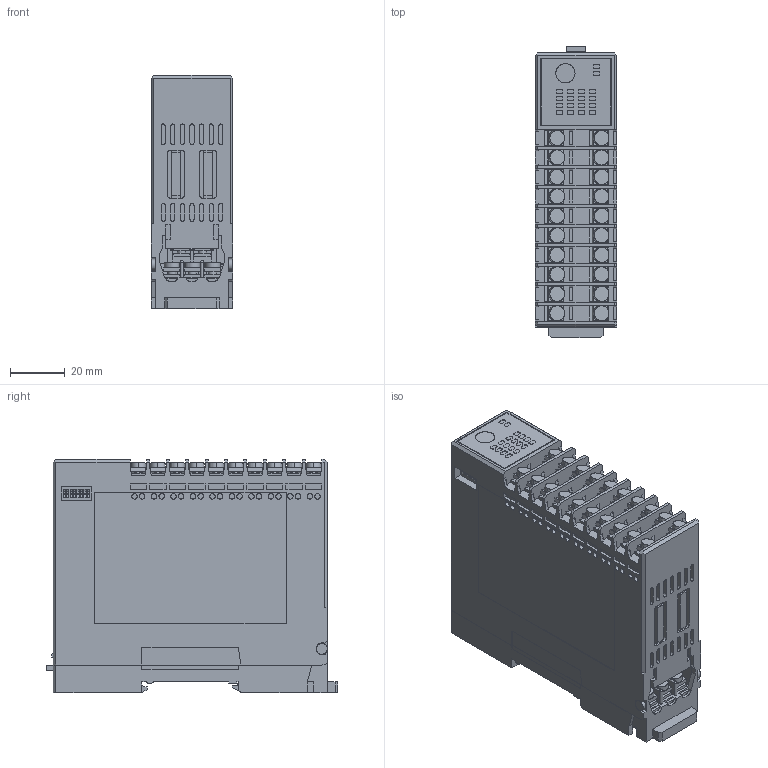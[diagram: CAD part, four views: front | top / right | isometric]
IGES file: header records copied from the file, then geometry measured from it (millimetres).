
Start section: SolidWorks IGES file using analytic representation for surfaces
Bounding box: 29.8 x 106.3 x 85.1 mm (x, y, z)
Surface area: 46925.8 mm2 (no closed solid volume)
Topology: 0 solids, 0 shells, 1957 faces, 17422 edges, 17420 vertices
Faces by surface type: bspline 1514, revolution 443
